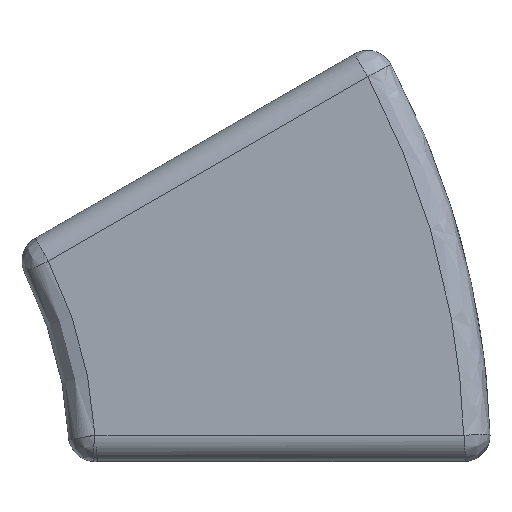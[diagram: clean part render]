
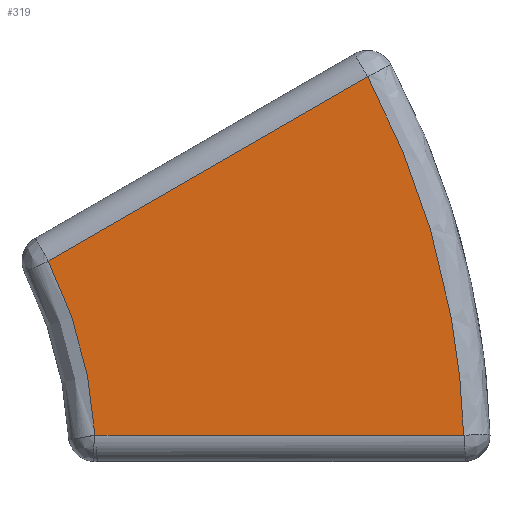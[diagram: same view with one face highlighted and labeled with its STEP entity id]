
A CAD part, top view. The second image highlights one B-rep face of the part: STEP entity #319.
In plain terms, the highlighted planar face has unit normal (0, 0, 1).
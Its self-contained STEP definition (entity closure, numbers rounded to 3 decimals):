
#5 = DIRECTION ( 'NONE',  ( 0.866, 0.5, 0. ) ) ;
#49 = CARTESIAN_POINT ( 'NONE',  ( 19.505, -13.027, 4. ) ) ;
#95 = CARTESIAN_POINT ( 'NONE',  ( 10.377, 21.033, 4. ) ) ;
#118 = ORIENTED_EDGE ( 'NONE', *, *, #1405, .F. ) ;
#144 = CARTESIAN_POINT ( 'NONE',  ( -15.529, -13.027, 4. ) ) ;
#148 = EDGE_CURVE ( 'NONE', #1552, #1976, #241, .T. ) ;
#225 = VECTOR ( 'NONE', #5, 1000. ) ;
#241 =( BOUNDED_CURVE ( )  B_SPLINE_CURVE ( 3, ( #95, #2432, #1653, #711 ),
 .UNSPECIFIED., .F., .F. ) 
 B_SPLINE_CURVE_WITH_KNOTS ( ( 4, 4 ),
 ( 0., 1. ),
 .UNSPECIFIED. ) 
 CURVE ( )  GEOMETRIC_REPRESENTATION_ITEM ( )  RATIONAL_B_SPLINE_CURVE ( ( 1., 0.983, 0.983, 1. ) ) 
 REPRESENTATION_ITEM ( '' )  );
#270 =( BOUNDED_CURVE ( )  B_SPLINE_CURVE ( 3, ( #716, #320, #1441, #1090 ),
 .UNSPECIFIED., .F., .F. ) 
 B_SPLINE_CURVE_WITH_KNOTS ( ( 4, 4 ),
 ( 0., 1. ),
 .UNSPECIFIED. ) 
 CURVE ( )  GEOMETRIC_REPRESENTATION_ITEM ( )  RATIONAL_B_SPLINE_CURVE ( ( 1., 0.986, 0.986, 1. ) ) 
 REPRESENTATION_ITEM ( '' )  );
#319 = ADVANCED_FACE ( 'NONE', ( #1591 ), #2159, .T. ) ;
#320 = CARTESIAN_POINT ( 'NONE',  ( -15.87, -7.248, 4. ) ) ;
#321 = AXIS2_PLACEMENT_3D ( 'NONE', #1403, #845, #1037 ) ;
#368 = CARTESIAN_POINT ( 'NONE',  ( 10.377, 21.033, 4. ) ) ;
#680 = LINE ( 'NONE', #1283, #1156 ) ;
#693 = DIRECTION ( 'NONE',  ( -1., 0., 0. ) ) ;
#711 = CARTESIAN_POINT ( 'NONE',  ( 19.505, -13.027, 4. ) ) ;
#716 = CARTESIAN_POINT ( 'NONE',  ( -15.529, -13.027, 4. ) ) ;
#845 = DIRECTION ( 'NONE',  ( 0., 0., 1. ) ) ;
#1015 = ORIENTED_EDGE ( 'NONE', *, *, #1565, .F. ) ;
#1037 = DIRECTION ( 'NONE',  ( 1., 0., 0. ) ) ;
#1039 = VERTEX_POINT ( 'NONE', #1350 ) ;
#1090 = CARTESIAN_POINT ( 'NONE',  ( -19.963, 3.517, 4. ) ) ;
#1156 = VECTOR ( 'NONE', #693, 1000. ) ;
#1283 = CARTESIAN_POINT ( 'NONE',  ( 182.045, -13.027, 4. ) ) ;
#1350 = CARTESIAN_POINT ( 'NONE',  ( -19.963, 3.517, 4. ) ) ;
#1353 = CARTESIAN_POINT ( 'NONE',  ( -19.963, 3.517, 4. ) ) ;
#1403 = CARTESIAN_POINT ( 'NONE',  ( -24.396, 3.843, 4. ) ) ;
#1405 = EDGE_CURVE ( 'NONE', #1791, #1039, #270, .T. ) ;
#1441 = CARTESIAN_POINT ( 'NONE',  ( -17.368, -1.658, 4. ) ) ;
#1552 = VERTEX_POINT ( 'NONE', #368 ) ;
#1565 = EDGE_CURVE ( 'NONE', #1039, #1552, #1727, .T. ) ;
#1591 = FACE_OUTER_BOUND ( 'NONE', #2120, .T. ) ;
#1653 = CARTESIAN_POINT ( 'NONE',  ( 19.118, -1.07, 4. ) ) ;
#1727 = LINE ( 'NONE', #1353, #225 ) ;
#1732 = ORIENTED_EDGE ( 'NONE', *, *, #1759, .F. ) ;
#1759 = EDGE_CURVE ( 'NONE', #1976, #1791, #680, .T. ) ;
#1791 = VERTEX_POINT ( 'NONE', #144 ) ;
#1888 = ORIENTED_EDGE ( 'NONE', *, *, #148, .F. ) ;
#1976 = VERTEX_POINT ( 'NONE', #49 ) ;
#2120 = EDGE_LOOP ( 'NONE', ( #1732, #1888, #1015, #118 ) ) ;
#2159 = PLANE ( 'NONE',  #321 ) ;
#2432 = CARTESIAN_POINT ( 'NONE',  ( 16.021, 10.485, 4. ) ) ;
